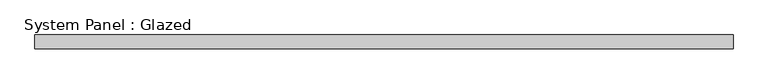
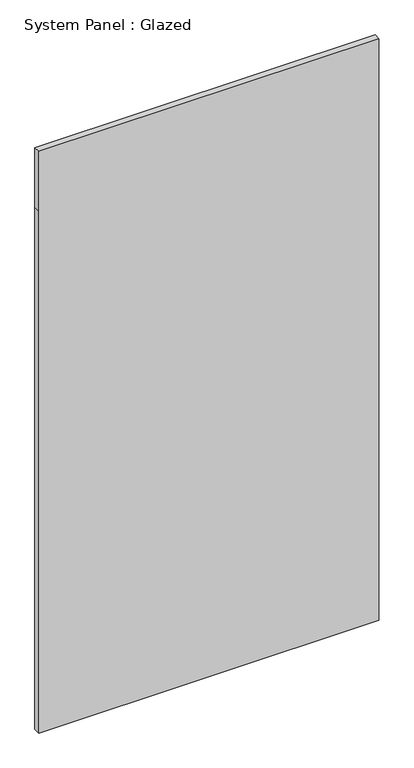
"""IFC4 building model written with IfcOpenShell, lengths in millimetres: plate geometry, System Panel : Glazed."""

from ifc_helpers import new_model, si_unit, frame, origin, place, context, project, spatial, polyline, outline, extrude, source, transform, mapped, element, save


def system_panel_glazed_c092dd15(model_context):
    return source(origin(), model_context, "Body", "SweptSolid", [
        extrude(outline(polyline([(0.0, -648.1535714), (0.0, 648.1535714), (2101.85, 648.1535714), (2343.15, 648.1535714), (2343.15, -648.1535714), (2101.85, -648.1535714), (0.0, -648.1535714)])), frame((0.0, 19.05, 0.0), z_axis=(0.0, 1.0, 0.0), x_axis=(0.0, 0.0, 1.0)), (0.0, 0.0, 1.0), 25.4),
    ])


if __name__ == "__main__":
    model = new_model("IFC4")
    model_context = context("Model", 3, world=origin())
    ifc_project = project(units=[si_unit("LENGTHUNIT", "METRE", prefix="MILLI")], contexts=[model_context])
    site = spatial("IfcSite", under=ifc_project)
    building = spatial("IfcBuilding", under=site)
    placement = place(None, origin())
    system_panel_glazed_shape = system_panel_glazed_c092dd15(model_context)
    element("IfcPlate", 1, ObjectType="System Panel : Glazed", at=placement, inside=building, context=model_context, shape_type="MappedRepresentation", body=[
        mapped(system_panel_glazed_shape, transform((0.0, 0.0, 0.0), x_axis=(1.0, 0.0, 0.0), y_axis=(0.0, 1.0, 0.0), z_axis=(0.0, 0.0, 1.0))),
    ])
    save(model, "model.ifc")
